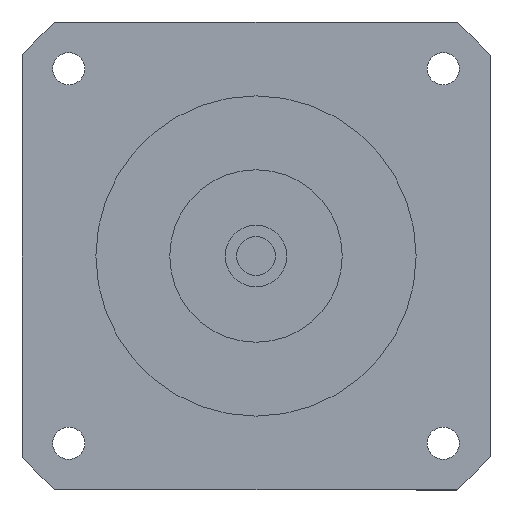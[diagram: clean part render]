
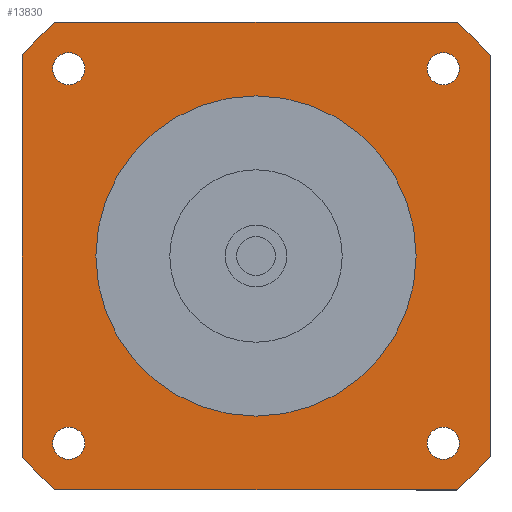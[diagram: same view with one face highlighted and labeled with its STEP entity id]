
A CAD part, left-side view. The second image highlights one B-rep face of the part: STEP entity #13830.
In plain terms, the highlighted planar face has unit normal (-1, 0, 0) as drawn and (0, 0, -1) by its records, which use the part's own axes.
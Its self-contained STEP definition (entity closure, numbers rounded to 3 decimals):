
#10130=CARTESIAN_POINT('',(95.,-81.24,-59.7));
#10140=VERTEX_POINT('',#10130);
#10190=CARTESIAN_POINT('',(0.,0.,
-59.7));
#10200=DIRECTION('',(0.,0.,-1.));
#10210=DIRECTION('',(1.,0.,0.));
#10220=AXIS2_PLACEMENT_3D('',#10190,#10200,#10210);
#10230=CIRCLE('',#10220,125.);
#10240=CARTESIAN_POINT('',(81.24,-95.,-59.7));
#10250=VERTEX_POINT('',#10240);
#10260=EDGE_CURVE('',#10140,#10250,#10230,.T.);
#10550=CARTESIAN_POINT('',(-81.24,-95.,-59.7));
#10560=VERTEX_POINT('',#10550);
#10610=CARTESIAN_POINT('',(0.,0.,
-59.7));
#10620=DIRECTION('',(0.,0.,-1.));
#10630=DIRECTION('',(1.,0.,0.));
#10640=AXIS2_PLACEMENT_3D('',#10610,#10620,#10630);
#10650=CIRCLE('',#10640,125.);
#10660=CARTESIAN_POINT('',(-95.,-81.24,-59.7));
#10670=VERTEX_POINT('',#10660);
#10680=EDGE_CURVE('',#10560,#10670,#10650,.T.);
#12360=CARTESIAN_POINT('',(69.514,-76.014,-59.7));
#12370=VERTEX_POINT('',#12360);
#12400=CARTESIAN_POINT('',(76.014,-76.014,-59.7));
#12410=DIRECTION('',(0.,0.,-1.));
#12420=DIRECTION('',(1.,0.,0.));
#12430=AXIS2_PLACEMENT_3D('',#12400,#12410,#12420);
#12440=CIRCLE('',#12430,6.5);
#12450=CARTESIAN_POINT('',(82.514,-76.014,-59.7));
#12460=VERTEX_POINT('',#12450);
#12470=EDGE_CURVE('',#12460,#12370,#12440,.T.);
#12590=CARTESIAN_POINT('',(95.,95.,-59.7));
#12600=DIRECTION('',(0.,0.,-1.));
#12610=DIRECTION('',(1.,0.,0.));
#12620=AXIS2_PLACEMENT_3D('',#12590,#12600,#12610);
#12630=PLANE('',#12620);
#12640=CARTESIAN_POINT('',(-76.014,76.014,-59.7));
#12650=DIRECTION('',(0.,0.,-1.));
#12660=DIRECTION('',(-1.,0.,0.));
#12670=AXIS2_PLACEMENT_3D('',#12640,#12650,#12660);
#12680=CIRCLE('',#12670,6.5);
#12690=CARTESIAN_POINT('',(-82.514,76.014,-59.7));
#12700=VERTEX_POINT('',#12690);
#12710=CARTESIAN_POINT('',(-69.514,76.014,-59.7));
#12720=VERTEX_POINT('',#12710);
#12730=EDGE_CURVE('',#12700,#12720,#12680,.T.);
#12740=ORIENTED_EDGE('',*,*,#12730,.F.);
#12750=EDGE_CURVE('',#12720,#12700,#12680,.T.);
#12760=ORIENTED_EDGE('',*,*,#12750,.F.);
#12770=EDGE_LOOP('',(#12760,#12740));
#12780=FACE_BOUND('',#12770,.T.);
#12790=CARTESIAN_POINT('',(76.014,76.014,-59.7));
#12800=DIRECTION('',(0.,0.,-1.));
#12810=DIRECTION('',(0.,1.,0.));
#12820=AXIS2_PLACEMENT_3D('',#12790,#12800,#12810);
#12830=CIRCLE('',#12820,6.5);
#12840=CARTESIAN_POINT('',(76.014,82.514,-59.7));
#12850=VERTEX_POINT('',#12840);
#12860=CARTESIAN_POINT('',(76.014,69.514,-59.7));
#12870=VERTEX_POINT('',#12860);
#12880=EDGE_CURVE('',#12850,#12870,#12830,.T.);
#12890=ORIENTED_EDGE('',*,*,#12880,.F.);
#12900=EDGE_CURVE('',#12870,#12850,#12830,.T.);
#12910=ORIENTED_EDGE('',*,*,#12900,.F.);
#12920=EDGE_LOOP('',(#12910,#12890));
#12930=FACE_BOUND('',#12920,.T.);
#12940=CARTESIAN_POINT('',(0.,0.,
-59.7));
#12950=DIRECTION('',(0.,0.,1.));
#12960=DIRECTION('',(0.,1.,0.));
#12970=AXIS2_PLACEMENT_3D('',#12940,#12950,#12960);
#12980=CIRCLE('',#12970,65.);
#12990=CARTESIAN_POINT('',(-65.,0.,-59.7));
#13000=VERTEX_POINT('',#12990);
#13010=CARTESIAN_POINT('',(65.,0.,-59.7));
#13020=VERTEX_POINT('',#13010);
#13030=EDGE_CURVE('',#13000,#13020,#12980,.T.);
#13040=ORIENTED_EDGE('',*,*,#13030,.T.);
#13050=CARTESIAN_POINT('',(0.,65.,-59.7));
#13060=VERTEX_POINT('',#13050);
#13070=EDGE_CURVE('',#13060,#13000,#12980,.T.);
#13080=ORIENTED_EDGE('',*,*,#13070,.T.);
#13090=EDGE_CURVE('',#13020,#13060,#12980,.T.);
#13100=ORIENTED_EDGE('',*,*,#13090,.T.);
#13110=EDGE_LOOP('',(#13100,#13080,#13040));
#13120=FACE_BOUND('',#13110,.T.);
#13130=ORIENTED_EDGE('',*,*,#12470,.F.);
#13140=EDGE_CURVE('',#12370,#12460,#12440,.T.);
#13150=ORIENTED_EDGE('',*,*,#13140,.F.);
#13160=EDGE_LOOP('',(#13150,#13130));
#13170=FACE_BOUND('',#13160,.T.);
#13180=CARTESIAN_POINT('',(-76.014,-76.014,-59.7));
#13190=DIRECTION('',(0.,0.,-1.));
#13200=DIRECTION('',(0.,-1.,0.));
#13210=AXIS2_PLACEMENT_3D('',#13180,#13190,#13200);
#13220=CIRCLE('',#13210,6.5);
#13230=CARTESIAN_POINT('',(-76.014,-82.514,-59.7));
#13240=VERTEX_POINT('',#13230);
#13250=CARTESIAN_POINT('',(-76.014,-69.514,-59.7));
#13260=VERTEX_POINT('',#13250);
#13270=EDGE_CURVE('',#13240,#13260,#13220,.T.);
#13280=ORIENTED_EDGE('',*,*,#13270,.F.);
#13290=EDGE_CURVE('',#13260,#13240,#13220,.T.);
#13300=ORIENTED_EDGE('',*,*,#13290,.F.);
#13310=EDGE_LOOP('',(#13300,#13280));
#13320=FACE_BOUND('',#13310,.T.);
#13330=CARTESIAN_POINT('',(-95.,95.,-59.7));
#13340=DIRECTION('',(1.,0.,0.));
#13350=VECTOR('',#13340,1000.);
#13360=LINE('',#13330,#13350);
#13370=CARTESIAN_POINT('',(-81.24,95.,-59.7));
#13380=VERTEX_POINT('',#13370);
#13390=CARTESIAN_POINT('',(81.24,95.,-59.7));
#13400=VERTEX_POINT('',#13390);
#13410=EDGE_CURVE('',#13380,#13400,#13360,.T.);
#13420=ORIENTED_EDGE('',*,*,#13410,.T.);
#13430=CARTESIAN_POINT('',(0.,0.,
-59.7));
#13440=DIRECTION('',(0.,0.,-1.));
#13450=DIRECTION('',(1.,0.,0.));
#13460=AXIS2_PLACEMENT_3D('',#13430,#13440,#13450);
#13470=CIRCLE('',#13460,125.);
#13480=CARTESIAN_POINT('',(-95.,81.24,-59.7));
#13490=VERTEX_POINT('',#13480);
#13500=EDGE_CURVE('',#13490,#13380,#13470,.T.);
#13510=ORIENTED_EDGE('',*,*,#13500,.T.);
#13520=CARTESIAN_POINT('',(-95.,-95.,-59.7));
#13530=DIRECTION('',(0.,1.,0.));
#13540=VECTOR('',#13530,1000.);
#13550=LINE('',#13520,#13540);
#13560=EDGE_CURVE('',#10670,#13490,#13550,.T.);
#13570=ORIENTED_EDGE('',*,*,#13560,.T.);
#13580=ORIENTED_EDGE('',*,*,#10680,.T.);
#13590=CARTESIAN_POINT('',(95.,-95.,-59.7));
#13600=DIRECTION('',(-1.,0.,0.));
#13610=VECTOR('',#13600,1000.);
#13620=LINE('',#13590,#13610);
#13630=EDGE_CURVE('',#10250,#10560,#13620,.T.);
#13640=ORIENTED_EDGE('',*,*,#13630,.T.);
#13650=ORIENTED_EDGE('',*,*,#10260,.T.);
#13660=CARTESIAN_POINT('',(95.,95.,-59.7));
#13670=DIRECTION('',(0.,-1.,0.));
#13680=VECTOR('',#13670,1000.);
#13690=LINE('',#13660,#13680);
#13700=CARTESIAN_POINT('',(95.,81.24,-59.7));
#13710=VERTEX_POINT('',#13700);
#13720=EDGE_CURVE('',#13710,#10140,#13690,.T.);
#13730=ORIENTED_EDGE('',*,*,#13720,.T.);
#13740=CARTESIAN_POINT('',(0.,0.,
-59.7));
#13750=DIRECTION('',(0.,0.,-1.));
#13760=DIRECTION('',(1.,0.,0.));
#13770=AXIS2_PLACEMENT_3D('',#13740,#13750,#13760);
#13780=CIRCLE('',#13770,125.);
#13790=EDGE_CURVE('',#13400,#13710,#13780,.T.);
#13800=ORIENTED_EDGE('',*,*,#13790,.T.);
#13810=EDGE_LOOP('',(#13800,#13730,#13650,#13640,#13580,#13570,#13510,
#13420));
#13820=FACE_OUTER_BOUND('',#13810,.T.);
#13830=ADVANCED_FACE('',(#12780,#12930,#13120,#13170,#13320,#13820),
#12630,.T.);
